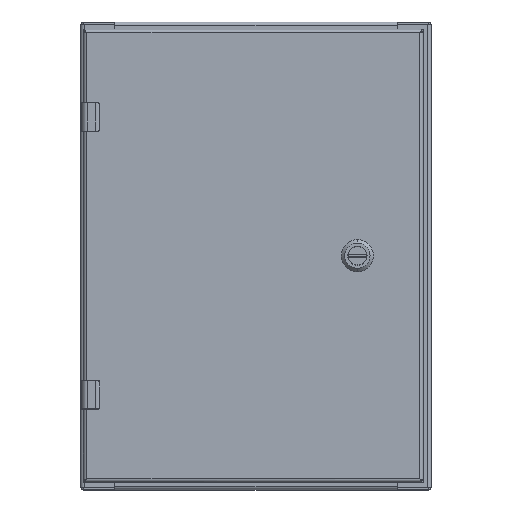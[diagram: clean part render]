
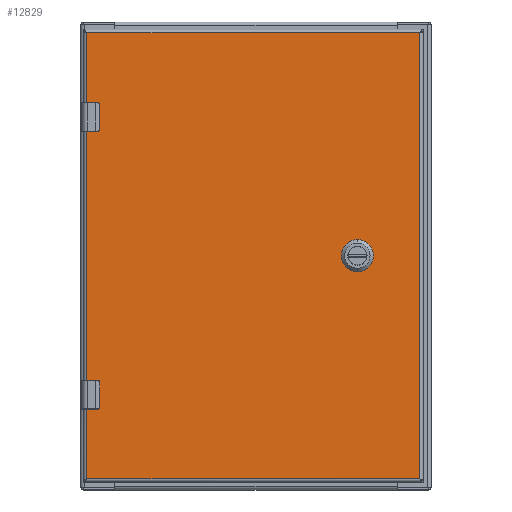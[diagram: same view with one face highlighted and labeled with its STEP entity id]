
A CAD part, top view. The second image highlights one B-rep face of the part: STEP entity #12829.
In plain terms, the highlighted planar face has unit normal (0, 0, 1).
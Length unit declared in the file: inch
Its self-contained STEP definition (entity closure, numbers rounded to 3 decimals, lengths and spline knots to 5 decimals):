
#9462=CARTESIAN_POINT('',(3.5625,0.,0.));
#9463=DIRECTION('',(0.,0.,1.));
#9464=DIRECTION('',(-0.448,0.894,0.));
#9465=AXIS2_PLACEMENT_3D('',#9462,#9463,#9464);
#9470=DIRECTION('',(0.,-1.,0.));
#9471=VECTOR('',#9470,0.39715);
#9472=CARTESIAN_POINT('',(3.1665,0.19858,0.));
#9473=LINE('',#9472,#9471);
#9477=CARTESIAN_POINT('',(3.5625,0.,0.));
#9478=DIRECTION('',(0.,0.,1.));
#9479=DIRECTION('',(-0.894,-0.448,0.));
#9480=AXIS2_PLACEMENT_3D('',#9477,#9478,#9479);
#9485=DIRECTION('',(1.,0.,0.));
#9486=VECTOR('',#9485,0.39715);
#9487=CARTESIAN_POINT('',(3.36392,-0.396,0.));
#9488=LINE('',#9487,#9486);
#9492=CARTESIAN_POINT('',(3.5625,0.,0.));
#9493=DIRECTION('',(0.,0.,1.));
#9494=DIRECTION('',(0.448,-0.894,0.));
#9495=AXIS2_PLACEMENT_3D('',#9492,#9493,#9494);
#9500=DIRECTION('',(0.,1.,0.));
#9501=VECTOR('',#9500,0.39715);
#9502=CARTESIAN_POINT('',(3.9585,-0.19858,0.));
#9503=LINE('',#9502,#9501);
#9507=CARTESIAN_POINT('',(3.5625,0.,0.));
#9508=DIRECTION('',(0.,0.,1.));
#9509=DIRECTION('',(0.894,0.448,0.));
#9510=AXIS2_PLACEMENT_3D('',#9507,#9508,#9509);
#9515=DIRECTION('',(-1.,0.,0.));
#9516=VECTOR('',#9515,0.39715);
#9517=CARTESIAN_POINT('',(3.76108,0.396,0.));
#9518=LINE('',#9517,#9516);
#9522=DIRECTION('',(1.,0.,0.));
#9523=VECTOR('',#9522,0.3629);
#9524=CARTESIAN_POINT('',(-5.6955,-5.095,0.));
#9525=LINE('',#9524,#9523);
#9529=DIRECTION('',(0.,1.,0.));
#9530=VECTOR('',#9529,0.63);
#9531=CARTESIAN_POINT('',(-5.3026,-5.065,0.));
#9532=LINE('',#9531,#9530);
#9536=DIRECTION('',(1.,0.,0.));
#9537=VECTOR('',#9536,0.3629);
#9538=CARTESIAN_POINT('',(-5.6955,-4.405,0.));
#9539=LINE('',#9538,#9537);
#9543=DIRECTION('',(1.,0.,0.));
#9544=VECTOR('',#9543,0.3629);
#9545=CARTESIAN_POINT('',(-5.6955,4.405,0.));
#9546=LINE('',#9545,#9544);
#9550=DIRECTION('',(0.,1.,0.));
#9551=VECTOR('',#9550,0.63);
#9552=CARTESIAN_POINT('',(-5.3026,4.435,0.));
#9553=LINE('',#9552,#9551);
#9557=DIRECTION('',(1.,0.,0.));
#9558=VECTOR('',#9557,0.3629);
#9559=CARTESIAN_POINT('',(-5.6955,5.095,0.));
#9560=LINE('',#9559,#9558);
#10093=DIRECTION('',(0.,-1.,0.));
#10094=VECTOR('',#10093,15.266);
#10095=CARTESIAN_POINT('',(5.6955,7.633,0.));
#10096=LINE('',#10095,#10094);
#10172=DIRECTION('',(1.,0.,0.));
#10173=VECTOR('',#10172,11.391);
#10174=CARTESIAN_POINT('',(-5.6955,7.633,0.));
#10175=LINE('',#10174,#10173);
#10312=DIRECTION('',(0.,1.,0.));
#10313=VECTOR('',#10312,8.81);
#10314=CARTESIAN_POINT('',(-5.6955,-4.405,0.));
#10315=LINE('',#10314,#10313);
#10319=CARTESIAN_POINT('',(-5.6955,7.633,0.));
#10363=DIRECTION('',(0.,1.,0.));
#10364=VECTOR('',#10363,2.538);
#10365=CARTESIAN_POINT('',(-5.6955,5.095,0.));
#10366=LINE('',#10365,#10364);
#10444=DIRECTION('',(0.,1.,0.));
#10445=VECTOR('',#10444,2.538);
#10446=CARTESIAN_POINT('',(-5.6955,-7.633,0.));
#10447=LINE('',#10446,#10445);
#10465=CARTESIAN_POINT('',(-5.3326,-4.435,0.));
#10466=DIRECTION('',(0.,0.,-1.));
#10467=DIRECTION('',(0.,1.,0.));
#10468=AXIS2_PLACEMENT_3D('',#10465,#10466,#10467);
#10495=CARTESIAN_POINT('',(-5.3326,-5.065,0.));
#10496=DIRECTION('',(0.,0.,-1.));
#10497=DIRECTION('',(1.,0.,0.));
#10498=AXIS2_PLACEMENT_3D('',#10495,#10496,#10497);
#10837=DIRECTION('',(-1.,0.,0.));
#10838=VECTOR('',#10837,11.391);
#10839=CARTESIAN_POINT('',(5.6955,-7.633,0.));
#10840=LINE('',#10839,#10838);
#11204=CARTESIAN_POINT('',(-5.3326,5.065,0.));
#11205=DIRECTION('',(0.,0.,-1.));
#11206=DIRECTION('',(0.,1.,0.));
#11207=AXIS2_PLACEMENT_3D('',#11204,#11205,#11206);
#11234=CARTESIAN_POINT('',(-5.3326,4.435,0.));
#11235=DIRECTION('',(0.,0.,-1.));
#11236=DIRECTION('',(1.,0.,0.));
#11237=AXIS2_PLACEMENT_3D('',#11234,#11235,#11236);
#12366=CARTESIAN_POINT('',(5.6955,7.633,0.));
#12367=CARTESIAN_POINT('',(5.6955,-7.633,0.));
#12368=VERTEX_POINT('',#12366);
#12369=VERTEX_POINT('',#12367);
#12454=CARTESIAN_POINT('',(3.36392,0.396,0.));
#12455=CARTESIAN_POINT('',(3.1665,0.19858,0.));
#12456=VERTEX_POINT('',#12454);
#12457=VERTEX_POINT('',#12455);
#12458=CARTESIAN_POINT('',(3.1665,-0.19858,0.));
#12459=VERTEX_POINT('',#12458);
#12460=CARTESIAN_POINT('',(3.36392,-0.396,0.));
#12461=VERTEX_POINT('',#12460);
#12462=CARTESIAN_POINT('',(3.76108,-0.396,0.));
#12463=VERTEX_POINT('',#12462);
#12464=CARTESIAN_POINT('',(3.9585,-0.19858,0.));
#12465=VERTEX_POINT('',#12464);
#12466=CARTESIAN_POINT('',(3.9585,0.19858,0.));
#12467=VERTEX_POINT('',#12466);
#12468=CARTESIAN_POINT('',(3.76108,0.396,0.));
#12469=VERTEX_POINT('',#12468);
#12516=VERTEX_POINT('',#10319);
#12521=CARTESIAN_POINT('',(-5.6955,-7.633,0.));
#12523=VERTEX_POINT('',#12521);
#12612=CARTESIAN_POINT('',(-5.6955,5.095,0.));
#12614=VERTEX_POINT('',#12612);
#12616=CARTESIAN_POINT('',(-5.6955,4.405,0.));
#12618=VERTEX_POINT('',#12616);
#12624=CARTESIAN_POINT('',(-5.3326,5.095,0.));
#12625=VERTEX_POINT('',#12624);
#12626=CARTESIAN_POINT('',(-5.3026,4.435,0.));
#12627=CARTESIAN_POINT('',(-5.3026,5.065,0.));
#12628=VERTEX_POINT('',#12626);
#12629=VERTEX_POINT('',#12627);
#12630=CARTESIAN_POINT('',(-5.3326,4.405,0.));
#12631=VERTEX_POINT('',#12630);
#12660=CARTESIAN_POINT('',(-5.6955,-4.405,0.));
#12662=VERTEX_POINT('',#12660);
#12664=CARTESIAN_POINT('',(-5.6955,-5.095,0.));
#12666=VERTEX_POINT('',#12664);
#12676=CARTESIAN_POINT('',(-5.3326,-4.405,0.));
#12678=VERTEX_POINT('',#12676);
#12680=CARTESIAN_POINT('',(-5.3026,-4.435,0.));
#12682=VERTEX_POINT('',#12680);
#12684=CARTESIAN_POINT('',(-5.3026,-5.065,0.));
#12686=VERTEX_POINT('',#12684);
#12688=CARTESIAN_POINT('',(-5.3326,-5.095,0.));
#12690=VERTEX_POINT('',#12688);
#12772=CARTESIAN_POINT('',(0.,0.,0.));
#12773=DIRECTION('',(0.,0.,-1.));
#12774=DIRECTION('',(1.,0.,0.));
#12775=AXIS2_PLACEMENT_3D('',#12772,#12773,#12774);
#12776=PLANE('',#12775);
#12778=ORIENTED_EDGE('',*,*,#12777,.T.);
#12780=ORIENTED_EDGE('',*,*,#12779,.T.);
#12782=ORIENTED_EDGE('',*,*,#12781,.T.);
#12784=ORIENTED_EDGE('',*,*,#12783,.F.);
#12786=ORIENTED_EDGE('',*,*,#12785,.T.);
#12788=ORIENTED_EDGE('',*,*,#12787,.F.);
#12790=ORIENTED_EDGE('',*,*,#12789,.F.);
#12792=ORIENTED_EDGE('',*,*,#12791,.T.);
#12794=ORIENTED_EDGE('',*,*,#12793,.T.);
#12796=ORIENTED_EDGE('',*,*,#12795,.F.);
#12798=ORIENTED_EDGE('',*,*,#12797,.T.);
#12800=ORIENTED_EDGE('',*,*,#12799,.F.);
#12802=ORIENTED_EDGE('',*,*,#12801,.F.);
#12804=ORIENTED_EDGE('',*,*,#12803,.T.);
#12806=ORIENTED_EDGE('',*,*,#12805,.T.);
#12808=ORIENTED_EDGE('',*,*,#12807,.T.);
#12809=EDGE_LOOP('',(#12778,#12780,#12782,#12784,#12786,#12788,#12790,#12792,
#12794,#12796,#12798,#12800,#12802,#12804,#12806,#12808));
#12810=FACE_OUTER_BOUND('',#12809,.F.);
#12812=ORIENTED_EDGE('',*,*,#12811,.T.);
#12814=ORIENTED_EDGE('',*,*,#12813,.T.);
#12816=ORIENTED_EDGE('',*,*,#12815,.T.);
#12818=ORIENTED_EDGE('',*,*,#12817,.T.);
#12820=ORIENTED_EDGE('',*,*,#12819,.T.);
#12822=ORIENTED_EDGE('',*,*,#12821,.T.);
#12824=ORIENTED_EDGE('',*,*,#12823,.T.);
#12826=ORIENTED_EDGE('',*,*,#12825,.T.);
#12827=EDGE_LOOP('',(#12812,#12814,#12816,#12818,#12820,#12822,#12824,#12826));
#12828=FACE_BOUND('',#12827,.F.);
#9466=CIRCLE('',#9465,0.443);
#9481=CIRCLE('',#9480,0.443);
#9496=CIRCLE('',#9495,0.443);
#9511=CIRCLE('',#9510,0.443);
#10469=CIRCLE('',#10468,0.03);
#10499=CIRCLE('',#10498,0.03);
#11208=CIRCLE('',#11207,0.03);
#11238=CIRCLE('',#11237,0.03);
#12777=EDGE_CURVE('',#12369,#12523,#10840,.T.);
#12779=EDGE_CURVE('',#12523,#12666,#10447,.T.);
#12781=EDGE_CURVE('',#12666,#12690,#9525,.T.);
#12783=EDGE_CURVE('',#12686,#12690,#10499,.T.);
#12785=EDGE_CURVE('',#12686,#12682,#9532,.T.);
#12787=EDGE_CURVE('',#12678,#12682,#10469,.T.);
#12789=EDGE_CURVE('',#12662,#12678,#9539,.T.);
#12791=EDGE_CURVE('',#12662,#12618,#10315,.T.);
#12793=EDGE_CURVE('',#12618,#12631,#9546,.T.);
#12795=EDGE_CURVE('',#12628,#12631,#11238,.T.);
#12797=EDGE_CURVE('',#12628,#12629,#9553,.T.);
#12799=EDGE_CURVE('',#12625,#12629,#11208,.T.);
#12801=EDGE_CURVE('',#12614,#12625,#9560,.T.);
#12803=EDGE_CURVE('',#12614,#12516,#10366,.T.);
#12805=EDGE_CURVE('',#12516,#12368,#10175,.T.);
#12807=EDGE_CURVE('',#12368,#12369,#10096,.T.);
#12811=EDGE_CURVE('',#12456,#12457,#9466,.T.);
#12813=EDGE_CURVE('',#12457,#12459,#9473,.T.);
#12815=EDGE_CURVE('',#12459,#12461,#9481,.T.);
#12817=EDGE_CURVE('',#12461,#12463,#9488,.T.);
#12819=EDGE_CURVE('',#12463,#12465,#9496,.T.);
#12821=EDGE_CURVE('',#12465,#12467,#9503,.T.);
#12823=EDGE_CURVE('',#12467,#12469,#9511,.T.);
#12825=EDGE_CURVE('',#12469,#12456,#9518,.T.);
#12829=ADVANCED_FACE('',(#12810,#12828),#12776,.F.);
